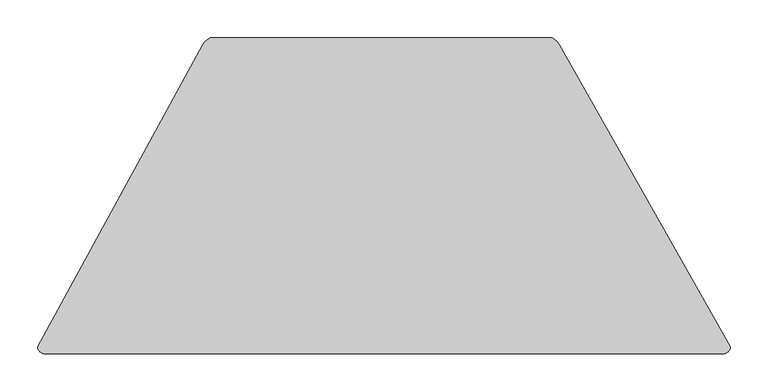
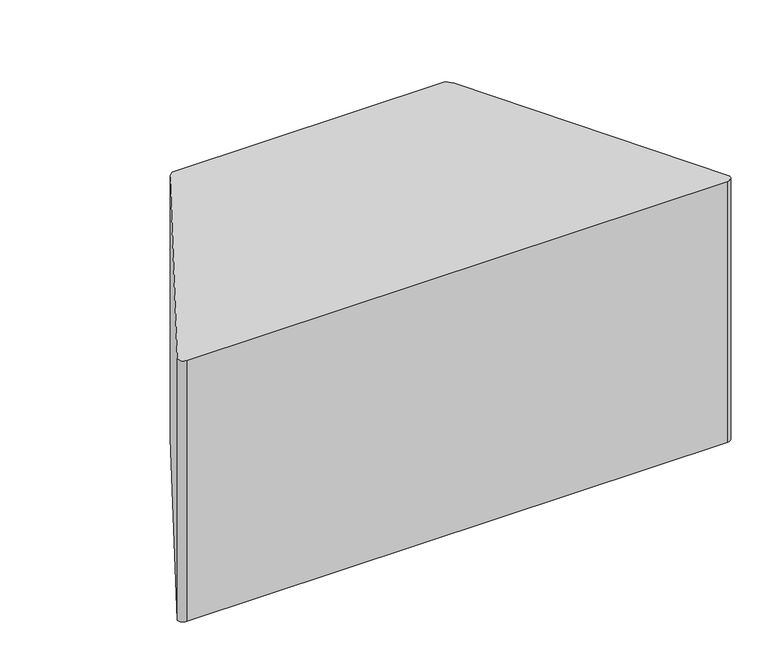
"""IFC4 building model written with IfcOpenShell, lengths in millimetres: furniture geometry, Puff - COLAB - 07 SP : Puff - COLAB - 07 SP."""

from ifc_helpers import new_model, si_unit, point, frame, frame_2d, origin, origin_with_axes, place, context, project, spatial, polyline, circle_curve, trimmed, segment, composite_curve, outline, extrude, source, transform, mapped, element, save


def furniture_dcf6a9ca(model_context):
    return source(origin(), model_context, "Body", "SweptSolid", [
        extrude(outline(composite_curve([segment(trimmed(circle_curve(frame_2d((205.754, 111.0)), 2.5), [point((203.254, 111.0))], [point((208.254, 111.0))], False, "CARTESIAN"), True, "CONTINUOUS"), segment(trimmed(circle_curve(frame_2d((205.754, 111.0)), 2.5), [point((208.254, 111.0))], [point((203.254, 111.0))], False, "CARTESIAN"), True, "CONTINUOUS")], self_intersect=False)), frame((0.0, 0.0, 5.0000003), z_axis=(0.0, 0.0, 1.0), x_axis=(1.0, 0.0, 0.0)), (0.0, 0.0, 1.0), 15.0000011),
        extrude(outline(composite_curve([segment(trimmed(circle_curve(frame_2d((703.754, 111.0)), 2.5563686), [point((701.1976314, 111.0))], [point((706.3103686, 111.0))], False, "CARTESIAN"), True, "CONTINUOUS"), segment(trimmed(circle_curve(frame_2d((703.754, 111.0)), 2.5563686), [point((706.3103686, 111.0))], [point((701.1976314, 111.0))], False, "CARTESIAN"), True, "CONTINUOUS")], self_intersect=False)), frame((0.0, 0.0, 5.0000003), z_axis=(0.0, 0.0, 1.0), x_axis=(1.0, 0.0, 0.0)), (0.0, 0.0, 1.0), 15.0000011),
        extrude(outline(composite_curve([segment(trimmed(circle_curve(frame_2d((703.7539997, 309.0000002)), 2.5000001), [point((701.2539995, 309.0000002))], [point((706.2539998, 309.0000002))], False, "CARTESIAN"), True, "CONTINUOUS"), segment(trimmed(circle_curve(frame_2d((703.7539997, 309.0000002)), 2.5000001), [point((706.2539998, 309.0000002))], [point((701.2539995, 309.0000002))], False, "CARTESIAN"), True, "CONTINUOUS")], self_intersect=False)), frame((0.0, 0.0, 5.0000003), z_axis=(0.0, 0.0, 1.0), x_axis=(1.0, 0.0, 0.0)), (0.0, 0.0, 1.0), 15.0000011),
        extrude(outline(composite_curve([segment(trimmed(circle_curve(frame_2d((205.754, 309.0)), 2.5), [point((203.254, 309.0))], [point((208.254, 309.0))], False, "CARTESIAN"), True, "CONTINUOUS"), segment(trimmed(circle_curve(frame_2d((205.754, 309.0)), 2.5), [point((208.254, 309.0))], [point((203.254, 309.0))], False, "CARTESIAN"), True, "CONTINUOUS")], self_intersect=False)), frame((0.0, 0.0, 5.0000003), z_axis=(0.0, 0.0, 1.0), x_axis=(1.0, 0.0, 0.0)), (0.0, 0.0, 1.0), 15.0000011),
        extrude(outline(composite_curve([segment(trimmed(circle_curve(frame_2d((205.754, 111.0)), 11.0), [point((194.754, 111.0))], [point((216.754, 111.0))], False, "CARTESIAN"), True, "CONTINUOUS"), segment(trimmed(circle_curve(frame_2d((205.754, 111.0)), 11.0), [point((216.754, 111.0))], [point((194.754, 111.0))], False, "CARTESIAN"), True, "CONTINUOUS")], self_intersect=False)), origin_with_axes(), (0.0, 0.0, 1.0), 5.0000003),
        extrude(outline(composite_curve([segment(trimmed(circle_curve(frame_2d((703.754, 111.0)), 10.9999992), [point((692.7540008, 111.0))], [point((714.7539992, 111.0))], False, "CARTESIAN"), True, "CONTINUOUS"), segment(trimmed(circle_curve(frame_2d((703.754, 111.0)), 10.9999992), [point((714.7539992, 111.0))], [point((692.7540008, 111.0))], False, "CARTESIAN"), True, "CONTINUOUS")], self_intersect=False)), origin_with_axes(), (0.0, 0.0, 1.0), 5.0000003),
        extrude(outline(composite_curve([segment(trimmed(circle_curve(frame_2d((703.754, 309.0)), 11.0), [point((692.754, 309.0))], [point((714.754, 309.0))], False, "CARTESIAN"), True, "CONTINUOUS"), segment(trimmed(circle_curve(frame_2d((703.754, 309.0)), 11.0), [point((714.754, 309.0))], [point((692.754, 309.0))], False, "CARTESIAN"), True, "CONTINUOUS")], self_intersect=False)), origin_with_axes(), (0.0, 0.0, 1.0), 5.0000003),
        extrude(outline(composite_curve([segment(trimmed(circle_curve(frame_2d((205.754, 309.0)), 10.9999992), [point((194.7540008, 309.0))], [point((216.7539992, 309.0))], False, "CARTESIAN"), True, "CONTINUOUS"), segment(trimmed(circle_curve(frame_2d((205.754, 309.0)), 10.9999992), [point((216.7539992, 309.0))], [point((194.7540008, 309.0))], False, "CARTESIAN"), True, "CONTINUOUS")], self_intersect=False)), origin_with_axes(), (0.0, 0.0, 1.0), 5.0000003),
        extrude(outline(composite_curve([segment(polyline([(0.0143956, 9.4636187), (219.5869964, 410.5600053)]), True, "CONTINUOUS"), segment(trimmed(circle_curve(frame_2d((240.4457222, 399.1412919)), 23.7796859), [point((219.5869964, 410.5600053))], [point((229.0270088, 420.0000177))], False, "CARTESIAN"), True, "CONTINUOUS"), segment(polyline([(229.0270088, 420.0000177), (683.2820214, 420.0000177)]), True, "CONTINUOUS"), segment(trimmed(circle_curve(frame_2d((670.9412754, 398.2192592)), 25.0338862), [point((683.2820214, 420.0000177))], [point((692.7220339, 410.5600053))], False, "CARTESIAN"), True, "CONTINUOUS"), segment(polyline([(692.7220339, 410.5600053), (919.9850255, 9.452948)]), True, "CONTINUOUS"), segment(trimmed(circle_curve(frame_2d((910.0, 10.0)), 10.0), [point((919.9850255, 9.452948))], [point((910.0, 0.0))], False, "CARTESIAN"), True, "CONTINUOUS"), segment(polyline([(910.0, 0.0), (10.0, 0.0)]), True, "CONTINUOUS"), segment(trimmed(circle_curve(frame_2d((10.0, 10.0)), 10.0), [point((10.0, 0.0))], [point((0.0143956, 9.4636187))], False, "CARTESIAN"), True, "CONTINUOUS")], self_intersect=False)), frame((0.0, 0.0, 20.0000013), z_axis=(0.0, 0.0, 1.0), x_axis=(1.0, 0.0, 0.0)), (0.0, 0.0, 1.0), 460.0399861),
    ])


if __name__ == "__main__":
    model = new_model("IFC4")
    model_context = context("Model", 3, world=origin())
    ifc_project = project(units=[si_unit("LENGTHUNIT", "METRE", prefix="MILLI")], contexts=[model_context])
    site = spatial("IfcSite", under=ifc_project)
    building = spatial("IfcBuilding", under=site)
    placement = place(None, origin())
    furniture_shape = furniture_dcf6a9ca(model_context)
    element("IfcFurniture", 1, ObjectType="Puff - COLAB - 07 SP : Puff - COLAB - 07 SP", at=placement, inside=building, context=model_context, shape_type="MappedRepresentation", body=[
        mapped(furniture_shape, transform((0.0, 0.0, 0.0), x_axis=(1.0, 0.0, 0.0), y_axis=(0.0, 1.0, 0.0), z_axis=(0.0, 0.0, 1.0))),
    ])
    save(model, "model.ifc")
